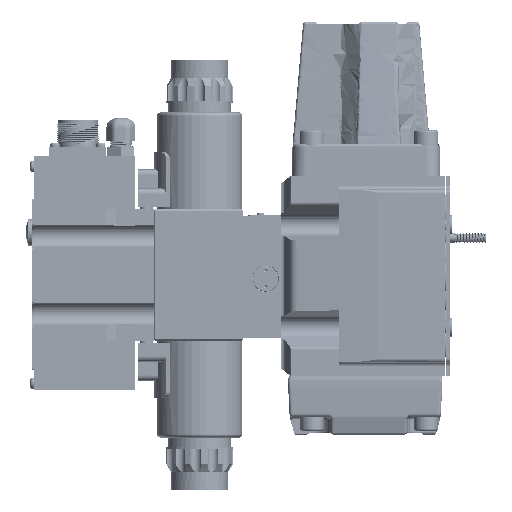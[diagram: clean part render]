
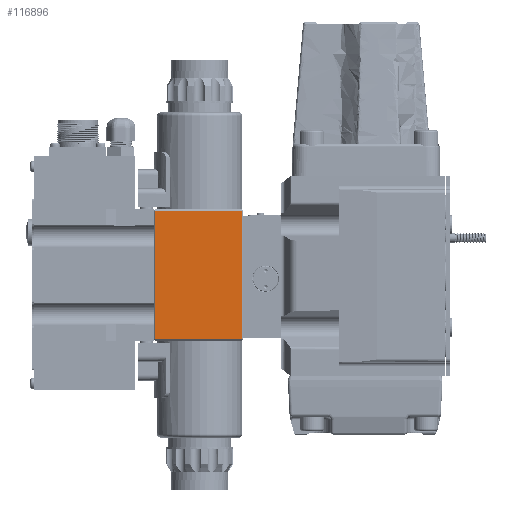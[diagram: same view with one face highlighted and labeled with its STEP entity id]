
A CAD part, front view. The second image highlights one B-rep face of the part: STEP entity #116896.
In plain terms, the highlighted planar face has unit normal (0, -1, 0).
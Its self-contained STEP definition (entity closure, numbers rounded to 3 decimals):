
#2452=PLANE('',#148323);
#7479=FACE_OUTER_BOUND('',#25059,.T.);
#25059=EDGE_LOOP('',(#45686,#45687,#45688,#45689));
#45686=ORIENTED_EDGE('',*,*,#79238,.T.);
#45687=ORIENTED_EDGE('',*,*,#79239,.T.);
#45688=ORIENTED_EDGE('',*,*,#79240,.T.);
#45689=ORIENTED_EDGE('',*,*,#79241,.T.);
#79238=EDGE_CURVE('',#134426,#134427,#95517,.T.);
#79239=EDGE_CURVE('',#134427,#134417,#95518,.T.);
#79240=EDGE_CURVE('',#134417,#134401,#95519,.T.);
#79241=EDGE_CURVE('',#134401,#134426,#95520,.T.);
#95517=LINE('',#274159,#104817);
#95518=LINE('',#274162,#104818);
#95519=LINE('',#274163,#104819);
#95520=LINE('',#274164,#104820);
#104817=VECTOR('',#169419,1.);
#104818=VECTOR('',#169420,1.);
#104819=VECTOR('',#169421,1.);
#104820=VECTOR('',#169422,1.);
#116896=ADVANCED_FACE('',(#7479),#2452,.T.);
#134401=VERTEX_POINT('',#273744);
#134417=VERTEX_POINT('',#274135);
#134426=VERTEX_POINT('',#274160);
#134427=VERTEX_POINT('',#274161);
#148323=AXIS2_PLACEMENT_3D('',#274165,#169423,#169424);
#169419=DIRECTION('',(-1.,0.,0.));
#169420=DIRECTION('',(0.,0.,-1.));
#169421=DIRECTION('',(1.,0.,0.));
#169422=DIRECTION('',(0.,0.,1.));
#169423=DIRECTION('',(0.,-1.,0.));
#169424=DIRECTION('',(1.,0.,0.));
#273744=CARTESIAN_POINT('',(-71.7,-21.25,19.2));
#274135=CARTESIAN_POINT('',(-117.3,-21.25,19.2));
#274159=CARTESIAN_POINT('',(-71.,-21.25,86.8));
#274160=CARTESIAN_POINT('',(-71.7,-21.25,86.8));
#274161=CARTESIAN_POINT('',(-117.3,-21.25,86.8));
#274162=CARTESIAN_POINT('',(-117.3,-21.25,53.));
#274163=CARTESIAN_POINT('',(-71.,-21.25,19.2));
#274164=CARTESIAN_POINT('',(-71.7,-21.25,53.));
#274165=CARTESIAN_POINT('',(-71.,-21.25,53.));
